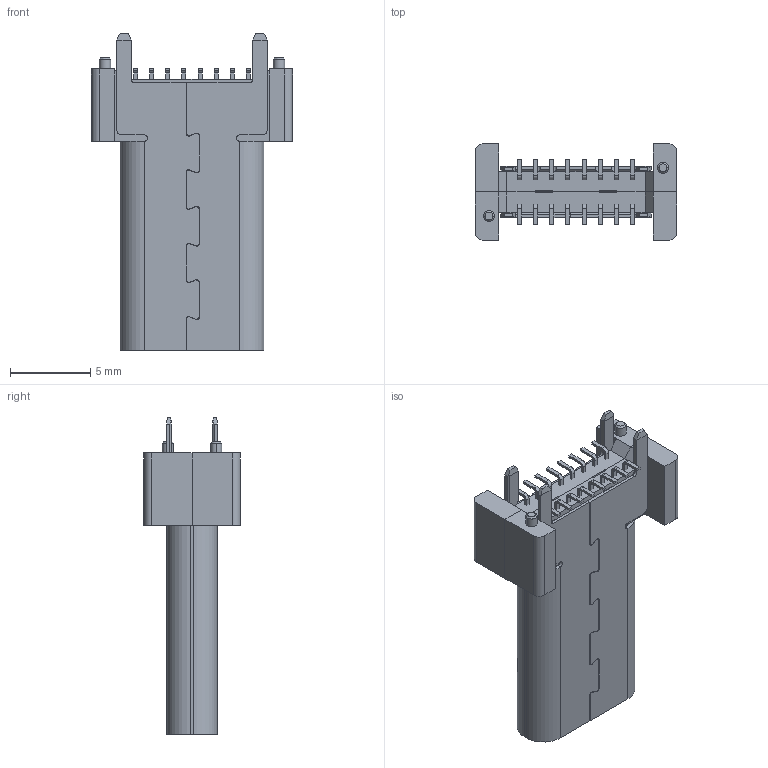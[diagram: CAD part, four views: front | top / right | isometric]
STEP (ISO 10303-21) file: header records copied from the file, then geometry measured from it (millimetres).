
FILE_DESCRIPTION((''),'2;1');
FILE_NAME('TYPE-16PIN_17_5-0910_ASM_1_ASM__ASM','2024-09-12T21:33:56',('27716'),('FoxCAVITY'),'CREO PARAMETRIC BY PTC INC, 2021404','CREO PARAMETRIC BY PTC INC, 2021404','');
FILE_SCHEMA(('AUTOMOTIVE_DESIGN { 1 0 10303 214 1 1 1 1 }'));
Length unit declared in the file: millimetre
Products named in the file (10): UP_MD160_1_45_1_1_1_1_1_1_1_1_1; 16P-PIN-DIP-T_1_1_1_1_1_1_2_1_2; MD_ASM_2_ASM_1_ASM_1_ASM_1_AS_1_ASM; MID-PLATE160_180_PRT_32_1_1_1_1; MID-ASSE160_ASM_8_ASM_1_ASM_1_1_ASM; 1-MD_ASM_2_ASM_1_ASM_1_ASM_1__1_ASM; 2M_160_86_1_1_1_1_1_1_1_1_1_1_1; FEMALE-H17-5-S_1_1_1_1_1_2_1__1; REC_15_ASM_1_ASM_1_ASM_1_ASM__1_ASM; TYPE-16PIN_17_5-0910_ASM_1_ASM__ASM
Assembly tree (10 placements, depth 5):
  TYPE-16PIN_17_5-0910_ASM_1_ASM__ASM
    REC_15_ASM_1_ASM_1_ASM_1_ASM__1_ASM
      1-MD_ASM_2_ASM_1_ASM_1_ASM_1__1_ASM
        MD_ASM_2_ASM_1_ASM_1_ASM_1_AS_1_ASM  x2
          UP_MD160_1_45_1_1_1_1_1_1_1_1_1
          16P-PIN-DIP-T_1_1_1_1_1_1_2_1_2
        MID-ASSE160_ASM_8_ASM_1_ASM_1_1_ASM
          MID-PLATE160_180_PRT_32_1_1_1_1
      2M_160_86_1_1_1_1_1_1_1_1_1_1_1
      FEMALE-H17-5-S_1_1_1_1_1_2_1__1
Bounding box: 12.5 x 6 x 19.7 mm (x, y, z)
Volume: 555.4 mm3; surface area: 2222.8 mm2
Topology: 21 solids, 21 shells, 2092 faces, 5965 edges, 3950 vertices
Faces by surface type: plane 1584, cylinder 468, cone 40
Entity records: 50780 total; most frequent: CARTESIAN_POINT 7597, ORIENTED_EDGE 7226, DIRECTION 6821, EDGE_CURVE 3613, VECTOR 2925, LINE 2925, PRESENTATION_STYLE_ASSIGNMENT 2747, STYLED_ITEM 2747
